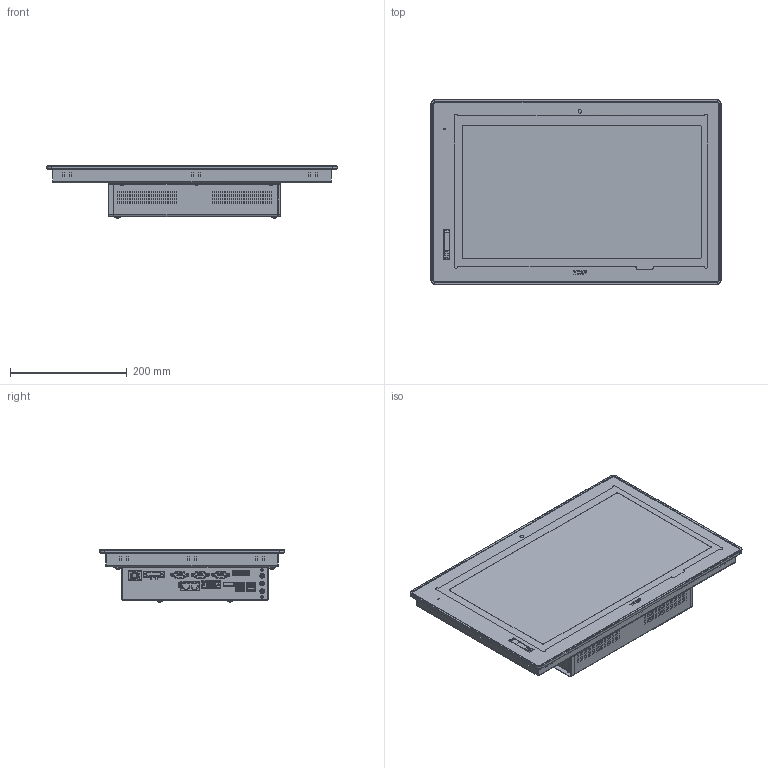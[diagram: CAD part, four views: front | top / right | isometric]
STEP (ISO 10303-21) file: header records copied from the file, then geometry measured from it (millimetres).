
FILE_DESCRIPTION((''),'2;1');
FILE_NAME('3D-OYTER_19_3_1','2018-04-10T',('bckim'),(''),'CREO PARAMETRIC BY PTC INC, 2016260','CREO PARAMETRIC BY PTC INC, 2016260','');
FILE_SCHEMA(('CONFIG_CONTROL_DESIGN'));
Products named in the file (1): 3D-OYTER_19_3_1
Bounding box: 497 x 316 x 89.45 mm (x, y, z)
Volume: 7965186.9 mm3; surface area: 487842 mm2
Topology: 1 solids, 14 shells, 3403 faces, 8940 edges, 5772 vertices
Faces by surface type: plane 2254, cylinder 827, torus 140, bspline 100, cone 42, sphere 36, extrusion 4
Entity records: 118833 total; most frequent: CARTESIAN_POINT 34742, ORIENTED_EDGE 17816, DIRECTION 16764, EDGE_CURVE 8908, VECTOR 6218, LINE 6214, VERTEX_POINT 5774, AXIS2_PLACEMENT_3D 5273
